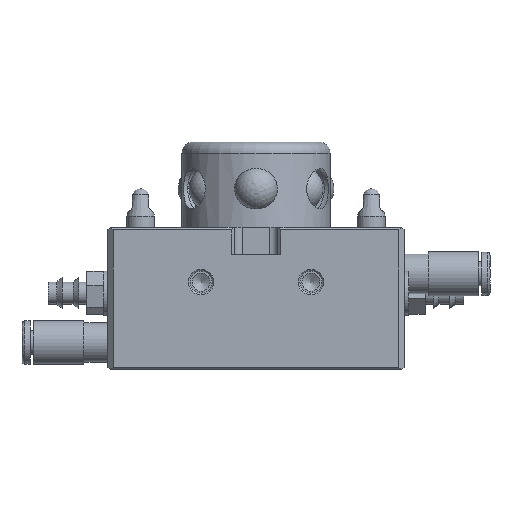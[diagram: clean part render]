
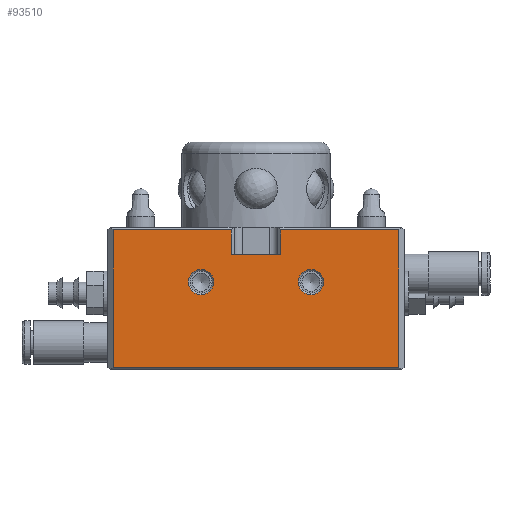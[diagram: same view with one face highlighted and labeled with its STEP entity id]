
A CAD part, front view. The second image highlights one B-rep face of the part: STEP entity #93510.
In plain terms, the highlighted planar face has unit normal (0, -1, 0).
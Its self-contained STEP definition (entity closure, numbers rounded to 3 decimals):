
#584 = ORIENTED_EDGE ( 'NONE', *, *, #15251, .T. ) ;
#891 = EDGE_CURVE ( 'NONE', #42714, #66895, #18067, .T. ) ;
#1008 = EDGE_CURVE ( 'NONE', #73329, #42714, #79156, .T. ) ;
#1836 = ORIENTED_EDGE ( 'NONE', *, *, #1008, .T. ) ;
#2918 = DIRECTION ( 'NONE',  ( 0., 0., 1. ) ) ;
#4077 = EDGE_CURVE ( 'NONE', #87748, #47422, #22337, .T. ) ;
#5160 = EDGE_LOOP ( 'NONE', ( #584 ) ) ;
#7885 = EDGE_LOOP ( 'NONE', ( #1836, #82651, #44778, #77316, #89955, #32098, #25290, #59768 ) ) ;
#8599 = ORIENTED_EDGE ( 'NONE', *, *, #21016, .T. ) ;
#10226 = EDGE_CURVE ( 'NONE', #47422, #66394, #86505, .T. ) ;
#11257 = CARTESIAN_POINT ( 'NONE',  ( -10., -27., 18.3 ) ) ;
#12717 = VECTOR ( 'NONE', #38673, 1000. ) ;
#12792 = VERTEX_POINT ( 'NONE', #18032 ) ;
#12888 = DIRECTION ( 'NONE',  ( 0., 0., 1. ) ) ;
#15251 = EDGE_CURVE ( 'NONE', #12792, #12792, #52467, .T. ) ;
#15719 = VECTOR ( 'NONE', #92590, 1000. ) ;
#18032 = CARTESIAN_POINT ( 'NONE',  ( 10., -27., 18.3 ) ) ;
#18067 = LINE ( 'NONE', #47088, #74588 ) ;
#18355 = CARTESIAN_POINT ( 'NONE',  ( -27., -27., 25.5 ) ) ;
#18554 = EDGE_CURVE ( 'NONE', #47504, #66895, #32378, .T. ) ;
#20805 = VERTEX_POINT ( 'NONE', #11257 ) ;
#20886 = DIRECTION ( 'NONE',  ( 0., 0., -1. ) ) ;
#21016 = EDGE_CURVE ( 'NONE', #20805, #20805, #78080, .T. ) ;
#22337 = LINE ( 'NONE', #76821, #61491 ) ;
#25290 = ORIENTED_EDGE ( 'NONE', *, *, #10226, .T. ) ;
#27599 = CARTESIAN_POINT ( 'NONE',  ( -26., -27., 0.5 ) ) ;
#28883 = CARTESIAN_POINT ( 'NONE',  ( -4.5, -27., 21. ) ) ;
#32098 = ORIENTED_EDGE ( 'NONE', *, *, #4077, .T. ) ;
#32127 = CARTESIAN_POINT ( 'NONE',  ( -27., -27., 0.5 ) ) ;
#32378 = LINE ( 'NONE', #76806, #73909 ) ;
#32977 = EDGE_CURVE ( 'NONE', #47504, #64321, #48777, .T. ) ;
#33957 = FACE_BOUND ( 'NONE', #5160, .T. ) ;
#34607 = LINE ( 'NONE', #75405, #12717 ) ;
#34785 = CARTESIAN_POINT ( 'NONE',  ( -4.5, -27., 26. ) ) ;
#37837 = DIRECTION ( 'NONE',  ( -1., 0., 0. ) ) ;
#38597 = FACE_BOUND ( 'NONE', #60403, .T. ) ;
#38673 = DIRECTION ( 'NONE',  ( -1., 0., 0. ) ) ;
#38996 = DIRECTION ( 'NONE',  ( 0., 1., 0. ) ) ;
#39913 = CARTESIAN_POINT ( 'NONE',  ( 4.5, -27., 25.5 ) ) ;
#41736 = CARTESIAN_POINT ( 'NONE',  ( 10., -27., 16. ) ) ;
#42714 = VERTEX_POINT ( 'NONE', #39913 ) ;
#44778 = ORIENTED_EDGE ( 'NONE', *, *, #18554, .F. ) ;
#46487 = VECTOR ( 'NONE', #12888, 1000. ) ;
#47049 = DIRECTION ( 'NONE',  ( 0., 1., 0. ) ) ;
#47088 = CARTESIAN_POINT ( 'NONE',  ( 4.5, -27., 26. ) ) ;
#47247 = DIRECTION ( 'NONE',  ( 1., 0., 0. ) ) ;
#47422 = VERTEX_POINT ( 'NONE', #27599 ) ;
#47504 = VERTEX_POINT ( 'NONE', #28883 ) ;
#48777 = LINE ( 'NONE', #34785, #46487 ) ;
#49149 = DIRECTION ( 'NONE',  ( 0., 0., 1. ) ) ;
#52467 = CIRCLE ( 'NONE', #84424, 2.3 ) ;
#54054 = DIRECTION ( 'NONE',  ( 1., 0., 0. ) ) ;
#54845 = LINE ( 'NONE', #85142, #15719 ) ;
#55692 = AXIS2_PLACEMENT_3D ( 'NONE', #91136, #47049, #2918 ) ;
#58644 = CARTESIAN_POINT ( 'NONE',  ( 26., -27., 0.5 ) ) ;
#59768 = ORIENTED_EDGE ( 'NONE', *, *, #65456, .T. ) ;
#60403 = EDGE_LOOP ( 'NONE', ( #8599 ) ) ;
#61491 = VECTOR ( 'NONE', #93365, 1000. ) ;
#64321 = VERTEX_POINT ( 'NONE', #85003 ) ;
#65456 = EDGE_CURVE ( 'NONE', #66394, #73329, #54845, .T. ) ;
#66394 = VERTEX_POINT ( 'NONE', #58644 ) ;
#66895 = VERTEX_POINT ( 'NONE', #72075 ) ;
#66976 = VECTOR ( 'NONE', #54054, 1000. ) ;
#67685 = VECTOR ( 'NONE', #37837, 1000. ) ;
#68345 = PLANE ( 'NONE',  #88355 ) ;
#71012 = CARTESIAN_POINT ( 'NONE',  ( -26., -27., 25.5 ) ) ;
#72075 = CARTESIAN_POINT ( 'NONE',  ( 4.5, -27., 21. ) ) ;
#73187 = FACE_OUTER_BOUND ( 'NONE', #7885, .T. ) ;
#73329 = VERTEX_POINT ( 'NONE', #80239 ) ;
#73909 = VECTOR ( 'NONE', #47247, 1000. ) ;
#74588 = VECTOR ( 'NONE', #20886, 1000. ) ;
#75405 = CARTESIAN_POINT ( 'NONE',  ( -27., -27., 25.5 ) ) ;
#76806 = CARTESIAN_POINT ( 'NONE',  ( -4., -27., 21. ) ) ;
#76821 = CARTESIAN_POINT ( 'NONE',  ( -26., -27., 26. ) ) ;
#77316 = ORIENTED_EDGE ( 'NONE', *, *, #32977, .T. ) ;
#78080 = CIRCLE ( 'NONE', #55692, 2.3 ) ;
#79156 = LINE ( 'NONE', #18355, #67685 ) ;
#80239 = CARTESIAN_POINT ( 'NONE',  ( 26., -27., 25.5 ) ) ;
#82651 = ORIENTED_EDGE ( 'NONE', *, *, #891, .T. ) ;
#83091 = CARTESIAN_POINT ( 'NONE',  ( -27., -27., 26. ) ) ;
#83463 = EDGE_CURVE ( 'NONE', #64321, #87748, #34607, .T. ) ;
#84424 = AXIS2_PLACEMENT_3D ( 'NONE', #41736, #93242, #49149 ) ;
#85003 = CARTESIAN_POINT ( 'NONE',  ( -4.5, -27., 25.5 ) ) ;
#85142 = CARTESIAN_POINT ( 'NONE',  ( 26., -27., 26. ) ) ;
#86505 = LINE ( 'NONE', #32127, #66976 ) ;
#87748 = VERTEX_POINT ( 'NONE', #71012 ) ;
#88355 = AXIS2_PLACEMENT_3D ( 'NONE', #83091, #38996, #90517 ) ;
#89955 = ORIENTED_EDGE ( 'NONE', *, *, #83463, .T. ) ;
#90517 = DIRECTION ( 'NONE',  ( 0., 0., 1. ) ) ;
#91136 = CARTESIAN_POINT ( 'NONE',  ( -10., -27., 16. ) ) ;
#92590 = DIRECTION ( 'NONE',  ( 0., 0., 1. ) ) ;
#93242 = DIRECTION ( 'NONE',  ( 0., 1., 0. ) ) ;
#93365 = DIRECTION ( 'NONE',  ( 0., 0., -1. ) ) ;
#93510 = ADVANCED_FACE ( 'NONE', ( #33957, #38597, #73187 ), #68345, .F. ) ;
